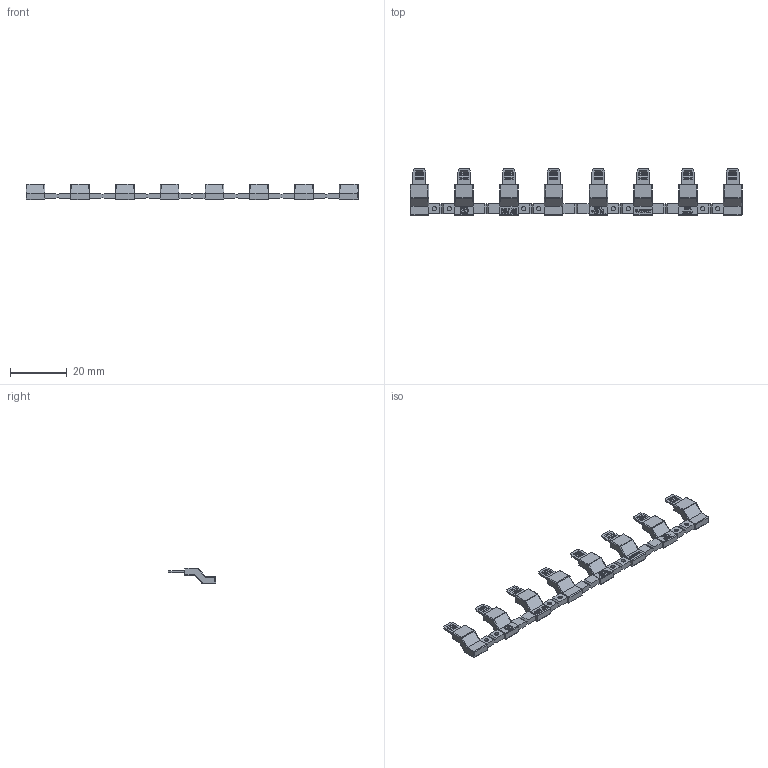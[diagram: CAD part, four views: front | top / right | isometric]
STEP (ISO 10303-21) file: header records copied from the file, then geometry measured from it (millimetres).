
FILE_DESCRIPTION(/* description */ (''),/* implementation_level */ '2;1');
FILE_NAME(/* name */ 'C:\Desktop\FIERA\Pettine 8 Poli 097.58 (passo 15.8mm)\097.58.stp',/* time_stamp */ '2015-03-05T16:26:50+01:00',/* author */ ('marco'),/* organization */ (''),/* preprocessor_version */ 'ST-DEVELOPER v15.6',/* originating_system */ 'Autodesk Inventor 2015',/* authorisation */ '');
FILE_SCHEMA (('AUTOMOTIVE_DESIGN { 1 0 10303 214 3 1 1 }'));
Length unit declared in the file: centimetre
Products named in the file (1): EF00948 Pettine 8 Poli Passo 15.8mm
Bounding box: 117.2 x 16.7 x 5.6 mm (x, y, z)
Volume: 2251.2 mm3; surface area: 3343.2 mm2
Topology: 1 solids, 1 shells, 1480 faces, 3760 edges, 2458 vertices
Faces by surface type: plane 1018, bspline 282, cylinder 142, sphere 22, torus 16
Full cylindrical faces by diameter (mm): 1.5 x16, 2.864 x1, 3.3 x1
Entity records: 46702 total; most frequent: CARTESIAN_POINT 11285, ORIENTED_EDGE 7440, DIRECTION 5850, EDGE_CURVE 3720, LINE 2860, VECTOR 2860, VERTEX_POINT 2458, EDGE_LOOP 1696
